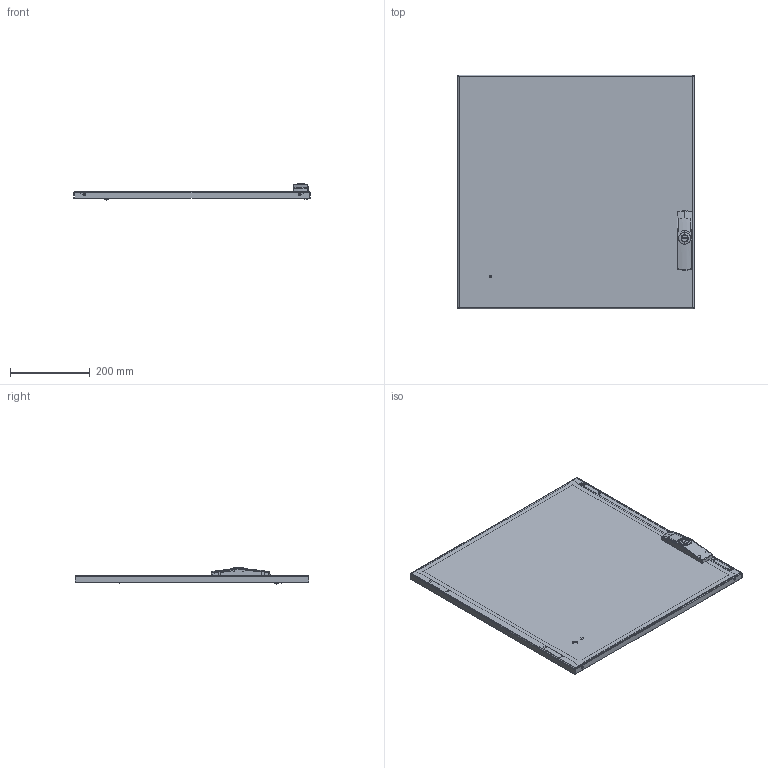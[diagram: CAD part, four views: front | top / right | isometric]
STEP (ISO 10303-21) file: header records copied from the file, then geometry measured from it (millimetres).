
FILE_DESCRIPTION (( 'STEP AP203' ), '1' );
FILE_NAME ('98400.step', '2013-04-04T08:32:05', ( '' ), ( '' ), 'SwSTEP 2.0', 'SolidWorks 2010', '' );
FILE_SCHEMA (( 'CONFIG_CONTROL_DESIGN' ));
Length unit declared in the file: inch
Products named in the file (27): 60127101_60127101; 60127424_60127424; 89065626_FIP GASKET; 87798945_60127373; 11359494; 11359488_11359488; 11158132_THIKNESS .155 FIXED; 87576035_87576035; 60127139_60127139; 98400; 89065625; 89065624; 60127172_60127172; 60100041_60100041; 87931527_87931527; 87931368_SLEEVE; 60127182_60127182; 60127208; 60127207; 60127212; 60127175_60127175; 60127216_60127216; 60127140_60127140; 60127138_60127138; 60127277_60127277; 51232001_51232001; 60127173_60127173
Assembly tree (34 placements, depth 4):
  98400
    60127277_60127277  x2
      51232001_51232001
      60127173_60127173
    11359494
      11359488_11359488
      11158132_THIKNESS .155 FIXED  x4
      60127216_60127216  x2
        60127140_60127140
        60127138_60127138
        87576035_87576035
      60127175_60127175
      60127139_60127139  x2
    60127424_60127424
      60127182_60127182
      87798945_60127373
      60127212
      60127208
      60127207
    89065625
      89065626_FIP GASKET
      60127172_60127172  x2
      60100041_60100041
        87931527_87931527
        87931368_SLEEVE
      60127101_60127101  x2
      89065624
Bounding box: 591.79 x 585.7 x 41.43 mm (x, y, z)
Volume: 720184.6 mm3; surface area: 907181.3 mm2
Topology: 31 solids, 31 shells, 1491 faces, 3747 edges, 2329 vertices
Faces by surface type: plane 615, cylinder 516, bspline 123, torus 121, cone 101, sphere 15
Entity records: 39706 total; most frequent: CARTESIAN_POINT 10571, ORIENTED_EDGE 5614, DIRECTION 5212, EDGE_CURVE 2807, AXIS2_PLACEMENT_3D 1864, VERTEX_POINT 1766, LINE 1484, VECTOR 1484
